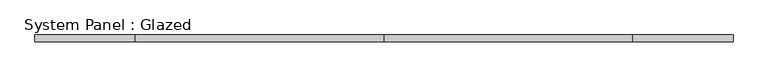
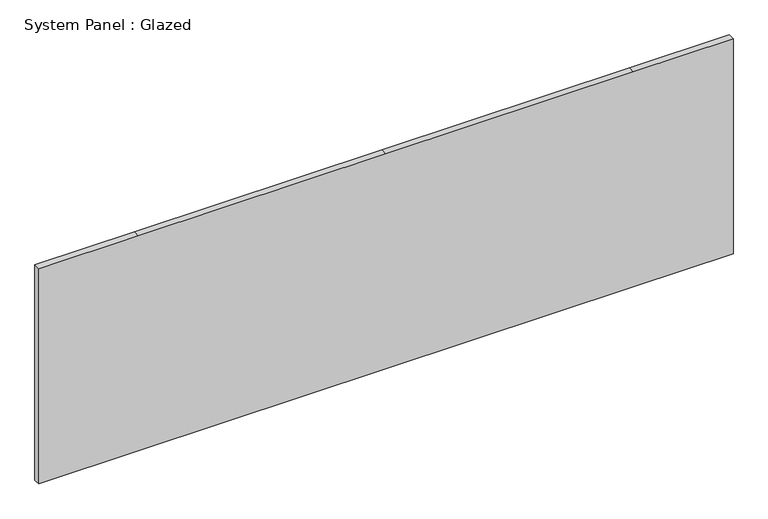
"""IFC4 building model written with IfcOpenShell, lengths in millimetres: plate geometry, System Panel : Glazed."""

from ifc_helpers import new_model, si_unit, frame, origin, place, context, project, spatial, polyline, outline, extrude, source, transform, mapped, element, save


def system_panel_glazed_02f9f53d(model_context):
    return source(origin(), model_context, "Body", "SweptSolid", [
        extrude(outline(polyline([(0.0, -1327.15), (0.0, -946.15), (0.0, 0.0), (0.0, 946.15), (0.0, 1327.15), (869.95, 1327.15), (869.95, 946.15), (869.95, 0.0), (869.95, -946.15), (869.95, -1327.15), (0.0, -1327.15)])), frame((0.0, 19.05, 0.0), z_axis=(0.0, 1.0, 0.0), x_axis=(0.0, 0.0, 1.0)), (0.0, 0.0, 1.0), 25.4),
    ])


if __name__ == "__main__":
    model = new_model("IFC4")
    model_context = context("Model", 3, world=origin())
    ifc_project = project(units=[si_unit("LENGTHUNIT", "METRE", prefix="MILLI")], contexts=[model_context])
    site = spatial("IfcSite", under=ifc_project)
    building = spatial("IfcBuilding", under=site)
    placement = place(None, origin())
    system_panel_glazed_shape = system_panel_glazed_02f9f53d(model_context)
    element("IfcPlate", 1, ObjectType="System Panel : Glazed", at=placement, inside=building, context=model_context, shape_type="MappedRepresentation", body=[
        mapped(system_panel_glazed_shape, transform((0.0, 0.0, 0.0), x_axis=(1.0, 0.0, 0.0), y_axis=(0.0, 1.0, 0.0), z_axis=(0.0, 0.0, 1.0))),
    ])
    save(model, "model.ifc")
